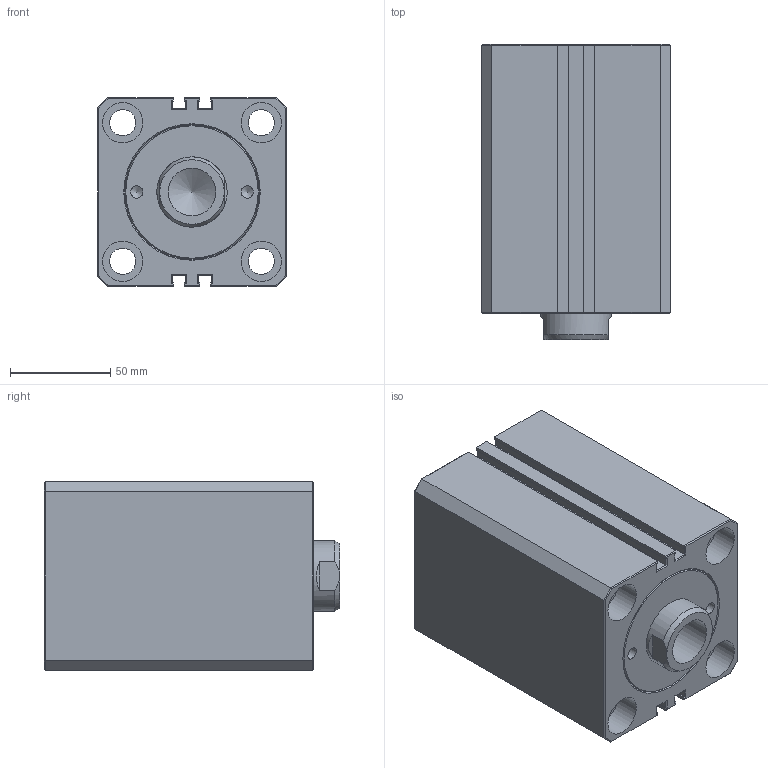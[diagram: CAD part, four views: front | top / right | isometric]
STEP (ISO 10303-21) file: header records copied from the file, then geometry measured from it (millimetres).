
FILE_DESCRIPTION(/* description */ ('Unknown'),/* implementation_level */ '2;1');
FILE_NAME(/* name */ 'HTM140-SD63X50N',/* time_stamp */ '2022-09-01T01:34:48+08:00',/* author */ ('Unknown'),/* organization */ ('Unknown'),/* preprocessor_version */ 'ST-DEVELOPER v16.7',/* originating_system */ 'DEX',/* authorisation */ $);
FILE_SCHEMA (('AUTOMOTIVE_DESIGN {1 0 10303 214 3 1 1}'));
Length unit declared in the file: millimetre
Products named in the file (1): HTM140-SD63X50N
Bounding box: 94 x 147 x 94 mm (x, y, z)
Volume: 1061092.9 mm3; surface area: 101454.4 mm2
Topology: 1 solids, 1 shells, 187 faces, 428 edges, 257 vertices
Faces by surface type: plane 140, cylinder 19, cone 16, bspline 12
Full cylindrical faces by diameter (mm): 6 x1, 6.1 x2, 12.301 x2, 13 x4, 20 x8, 23.752 x1, 35 x1
Entity records: 6353 total; most frequent: CARTESIAN_POINT 1061, ORIENTED_EDGE 778, DIRECTION 768, EDGE_CURVE 389, LINE 294, VECTOR 294, VERTEX_POINT 248, FACE_BOUND 239
